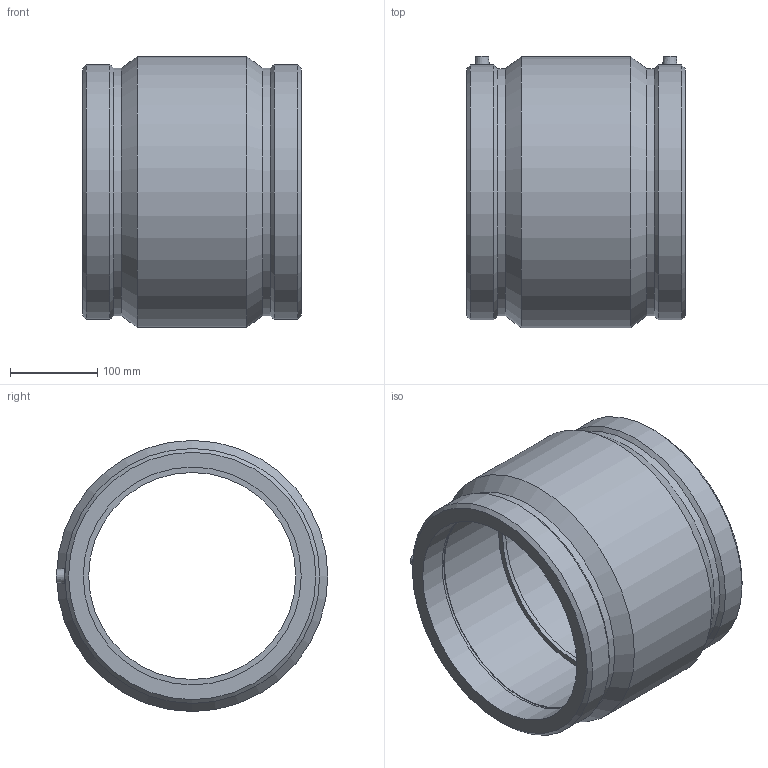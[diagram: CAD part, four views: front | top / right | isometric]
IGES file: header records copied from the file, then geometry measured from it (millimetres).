
Global section: file name: 490104250.ipt; native system: Autodesk Inventor 2015; preprocessor: unknown; author: KIM; date: 20171106.093555; units: millimetre
Bounding box: 251 x 311.5 x 311 mm (x, y, z)
Volume: 5639515.6 mm3; surface area: 490901.3 mm2
Topology: 1 solids, 1 shells, 36 faces, 80 edges, 54 vertices
Faces by surface type: plane 12, revolution 9, cone 8, cylinder 7
Full cylindrical faces by diameter (mm): 4 x2, 283.57 x2, 292.34 x2, 311 x1
